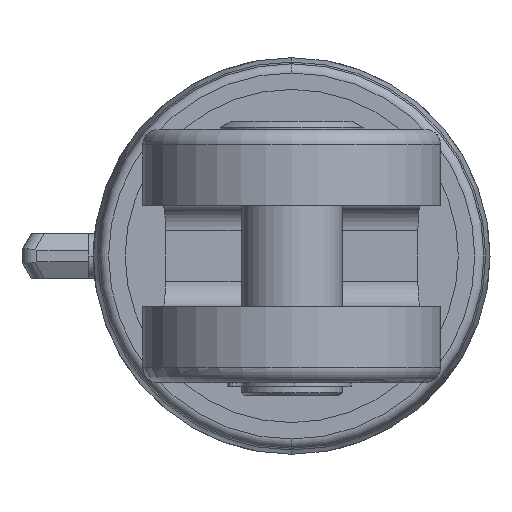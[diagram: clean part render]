
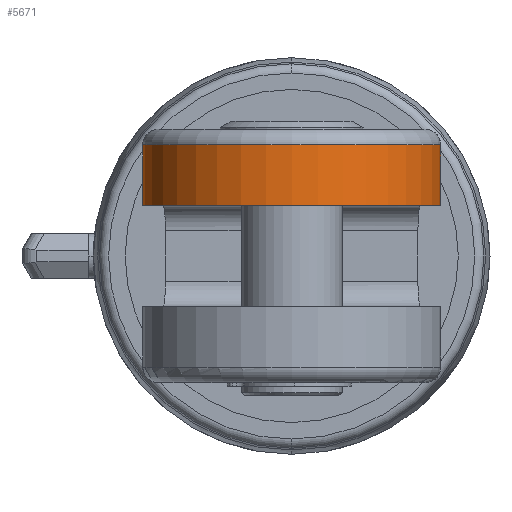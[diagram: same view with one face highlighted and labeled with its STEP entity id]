
A CAD part, left-side view. The second image highlights one B-rep face of the part: STEP entity #5671.
In plain terms, the highlighted cylindrical face has radius 47 mm (diameter 94 mm), a partial arc.
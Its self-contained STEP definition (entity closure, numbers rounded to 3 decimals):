
#122 = DIRECTION ( 'NONE',  ( 0., 0., -1. ) ) ;
#161 = VERTEX_POINT ( 'NONE', #4492 ) ;
#406 = CARTESIAN_POINT ( 'NONE',  ( -1585.35, -47., 16. ) ) ;
#855 = VERTEX_POINT ( 'NONE', #3483 ) ;
#877 = CARTESIAN_POINT ( 'NONE',  ( -1585.35, -47., -40. ) ) ;
#998 = CARTESIAN_POINT ( 'NONE',  ( -1585.35, 0., 16. ) ) ;
#1168 = VERTEX_POINT ( 'NONE', #3692 ) ;
#1262 = AXIS2_PLACEMENT_3D ( 'NONE', #2196, #2927, #4484 ) ;
#1519 = FACE_OUTER_BOUND ( 'NONE', #2973, .T. ) ;
#1587 = LINE ( 'NONE', #2730, #2991 ) ;
#1707 = EDGE_CURVE ( 'NONE', #3552, #855, #3994, .T. ) ;
#1969 = ORIENTED_EDGE ( 'NONE', *, *, #3690, .T. ) ;
#2173 = DIRECTION ( 'NONE',  ( 0., 0., 1. ) ) ;
#2196 = CARTESIAN_POINT ( 'NONE',  ( -1585.35, 0., 35. ) ) ;
#2730 = CARTESIAN_POINT ( 'NONE',  ( -1585.35, 47., -40. ) ) ;
#2927 = DIRECTION ( 'NONE',  ( 0., 0., -1. ) ) ;
#2973 = EDGE_LOOP ( 'NONE', ( #3417, #4835, #4700, #1969 ) ) ;
#2991 = VECTOR ( 'NONE', #5351, 1000. ) ;
#3125 = AXIS2_PLACEMENT_3D ( 'NONE', #998, #122, #5284 ) ;
#3417 = ORIENTED_EDGE ( 'NONE', *, *, #4258, .F. ) ;
#3483 = CARTESIAN_POINT ( 'NONE',  ( -1585.35, 47., 16. ) ) ;
#3552 = VERTEX_POINT ( 'NONE', #406 ) ;
#3690 = EDGE_CURVE ( 'NONE', #1168, #161, #4608, .T. ) ;
#3692 = CARTESIAN_POINT ( 'NONE',  ( -1585.35, -47., 35. ) ) ;
#3878 = LINE ( 'NONE', #877, #6871 ) ;
#3994 = CIRCLE ( 'NONE', #3125, 47. ) ;
#4073 = EDGE_CURVE ( 'NONE', #3552, #1168, #3878, .T. ) ;
#4258 = EDGE_CURVE ( 'NONE', #855, #161, #1587, .T. ) ;
#4484 = DIRECTION ( 'NONE',  ( 0., -1., 0. ) ) ;
#4492 = CARTESIAN_POINT ( 'NONE',  ( -1585.35, 47., 35. ) ) ;
#4553 = DIRECTION ( 'NONE',  ( 0., -1., 0. ) ) ;
#4608 = CIRCLE ( 'NONE', #1262, 47. ) ;
#4700 = ORIENTED_EDGE ( 'NONE', *, *, #4073, .T. ) ;
#4835 = ORIENTED_EDGE ( 'NONE', *, *, #1707, .F. ) ;
#5141 = CARTESIAN_POINT ( 'NONE',  ( -1585.35, 0., -40. ) ) ;
#5284 = DIRECTION ( 'NONE',  ( 1., 0., 0. ) ) ;
#5351 = DIRECTION ( 'NONE',  ( 0., 0., 1. ) ) ;
#5671 = ADVANCED_FACE ( 'NONE', ( #1519 ), #6648, .T. ) ;
#5756 = DIRECTION ( 'NONE',  ( 0., 0., 1. ) ) ;
#6221 = AXIS2_PLACEMENT_3D ( 'NONE', #5141, #2173, #4553 ) ;
#6648 = CYLINDRICAL_SURFACE ( 'NONE', #6221, 47. ) ;
#6871 = VECTOR ( 'NONE', #5756, 1000. ) ;
